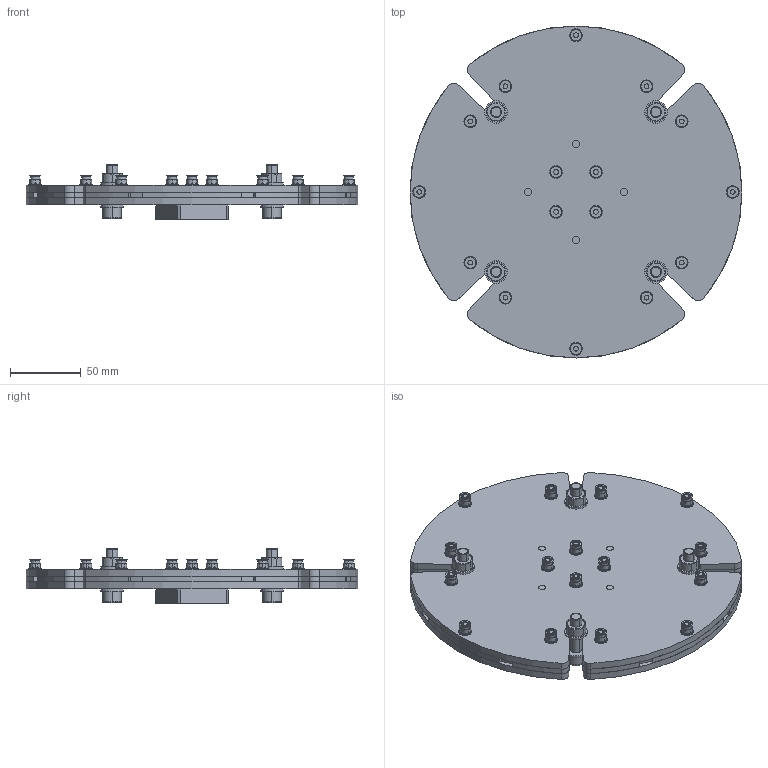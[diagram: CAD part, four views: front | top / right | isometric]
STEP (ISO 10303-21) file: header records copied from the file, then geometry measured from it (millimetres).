
FILE_DESCRIPTION((''),'2;1');
FILE_NAME('COV-02-0000-01_ASM','2021-06-30T',('Tomáš'),(''),'CREO PARAMETRIC BY PTC INC, 2016050','CREO PARAMETRIC BY PTC INC, 2016050','');
FILE_SCHEMA(('CONFIG_CONTROL_DESIGN'));
Length unit declared in the file: millimetre
Products named in the file (12): COV-02-0001-01; COV-02-0003-01; COV-02-0002-01; SCREW_ADAPTERPLATE_V2; DIN_7991_CSUNK_INBUS_M4_L16; DIN_125A_FLAT_M8; DIN912_INBUS_M8_L30; DIN_555_HEX_M8; KOLIK_5MM; DIN_125A_FLAT_M4; DIN_982_LOCK_M4; COV-02-0000-01_ASM
Assembly tree (72 placements, depth 2):
  COV-02-0000-01_ASM
    COV-02-0001-01
    COV-02-0003-01
    COV-02-0002-01
    SCREW_ADAPTERPLATE_V2
    DIN_7991_CSUNK_INBUS_M4_L16  x16
    DIN_125A_FLAT_M8  x8
    DIN912_INBUS_M8_L30  x4
    DIN_555_HEX_M8  x4
    KOLIK_5MM  x4
    DIN_125A_FLAT_M4  x16
    DIN_982_LOCK_M4  x16
Bounding box: 235 x 235 x 38.4 mm (x, y, z)
Volume: 528217.4 mm3; surface area: 271641.2 mm2
Topology: 72 solids, 172 shells, 1890 faces, 4229 edges, 2543 vertices
Faces by surface type: cylinder 692, cone 595, plane 528, torus 72, bspline 3
Entity records: 18687 total; most frequent: CARTESIAN_POINT 6780, DIRECTION 2632, ORIENTED_EDGE 2218, EDGE_CURVE 1129, AXIS2_PLACEMENT_3D 1068, VERTEX_POINT 717, EDGE_LOOP 562, CIRCLE 532
